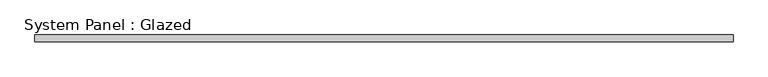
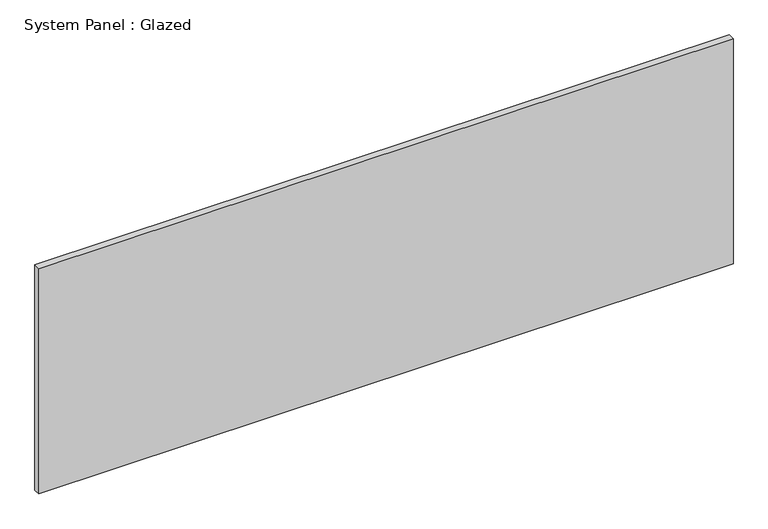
"""IFC4 building model written with IfcOpenShell, lengths in millimetres: plate geometry, System Panel : Glazed."""

from ifc_helpers import new_model, si_unit, origin, origin_with_axes, place, context, project, spatial, polyline, outline, extrude, source, transform, mapped, element, save


def system_panel_glazed_2714af2c(model_context):
    return source(origin(), model_context, "Body", "SweptSolid", [
        extrude(outline(polyline([(1312.5, -49.5), (-1312.5, -49.5), (-1312.5, -24.5), (1312.5, -24.5), (1312.5, -49.5)])), origin_with_axes(), (0.0, 0.0, 1.0), 900.0),
    ])


if __name__ == "__main__":
    model = new_model("IFC4")
    model_context = context("Model", 3, world=origin())
    ifc_project = project(units=[si_unit("LENGTHUNIT", "METRE", prefix="MILLI")], contexts=[model_context])
    site = spatial("IfcSite", under=ifc_project)
    building = spatial("IfcBuilding", under=site)
    placement = place(None, origin())
    system_panel_glazed_shape = system_panel_glazed_2714af2c(model_context)
    element("IfcPlate", 1, ObjectType="System Panel : Glazed", at=placement, inside=building, context=model_context, shape_type="MappedRepresentation", body=[
        mapped(system_panel_glazed_shape, transform((0.0, 0.0, 0.0), x_axis=(1.0, 0.0, 0.0), y_axis=(0.0, 1.0, 0.0), z_axis=(0.0, 0.0, 1.0))),
    ])
    save(model, "model.ifc")
